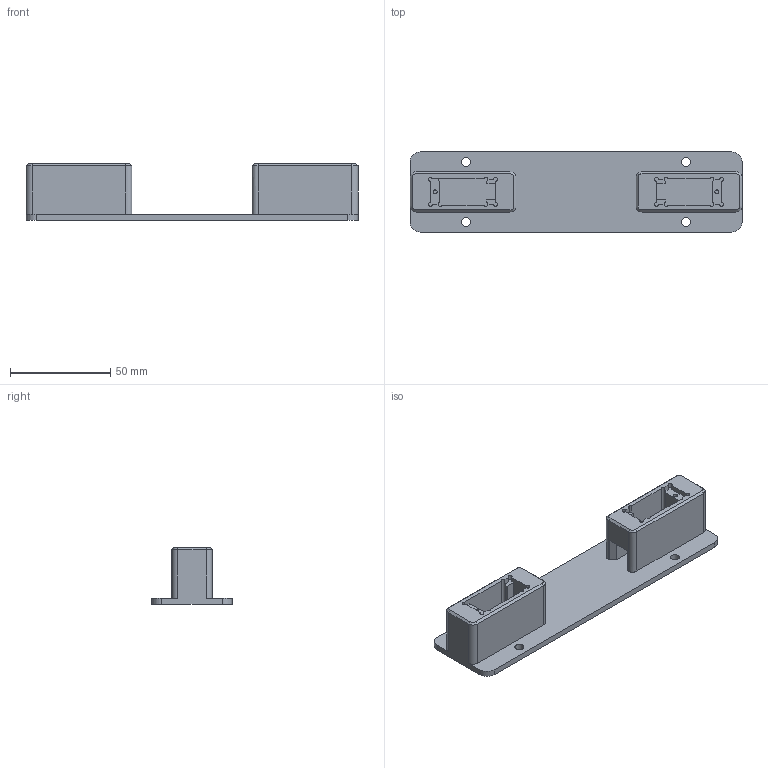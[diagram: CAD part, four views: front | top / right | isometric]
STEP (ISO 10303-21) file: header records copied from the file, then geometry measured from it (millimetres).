
FILE_DESCRIPTION(('STEP AP242 Edition 2','STEP AP242 Edition 2''CAx-IF Rec.Pracs.---Representation and Presentation of Product Manufacturing Information (PMI)---4.0---2014-10-13','STEP AP242 Edition 2''CAx-IF Rec.Pracs.---Representation and Presentation of Product Manufacturing Information (PMI)---4.0---2014-10-13''CAx-IF Rec.Pracs.---3D Tessellated Geometry---0.4---2014-09-14','STEP AP242 Edition 2''CAx-IF Rec.Pracs.---Representation and Presentation of Product Manufacturing Information (PMI)---4.0---2014-10-13''CAx-IF Rec.Pracs.---3D Tessellated Geometry---0.4---2014-09-14''2;1','STEP AP242 Edition 2''CAx-IF Rec.Pracs.---Representation and Presentation of Product Manufacturing Information (PMI)---4.0---2014-10-13''CAx-IF Rec.Pracs.---3D Tessellated Geometry---0.4---2014-09-14''2;1''CAx-IF Rec.Pracs.---User Defined Attributes---1.5---2016-08-15'),'2;1');
FILE_NAME('/vol/tmp/translate-1775843114321225475/Draw Bot V2 - Servo Base.step','2026-03-21T23:30:44',(''),(''),'ST-DEVELOPER v20','ONSHAPE BY PTC INC, 1.212',' ');
FILE_SCHEMA(('AP242_MANAGED_MODEL_BASED_3D_ENGINEERING_MIM_LF { 1 0 10303 442 3 1 4 }'));
Length unit declared in the file: millimetre
Products named in the file (1): Servo Base
Bounding box: 165.8 x 40 x 28 mm (x, y, z)
Volume: 51331.9 mm3; surface area: 26451.7 mm2
Topology: 1 solids, 1 shells, 103 faces, 287 edges, 186 vertices
Faces by surface type: plane 61, cylinder 30, bspline 8, cone 4
Full cylindrical faces by diameter (mm): 2 x2, 4.5 x4
Entity records: 3428 total; most frequent: CARTESIAN_POINT 779, ORIENTED_EDGE 562, DIRECTION 516, EDGE_CURVE 281, VERTEX_POINT 186, LINE 182, VECTOR 182, AXIS2_PLACEMENT_3D 167
